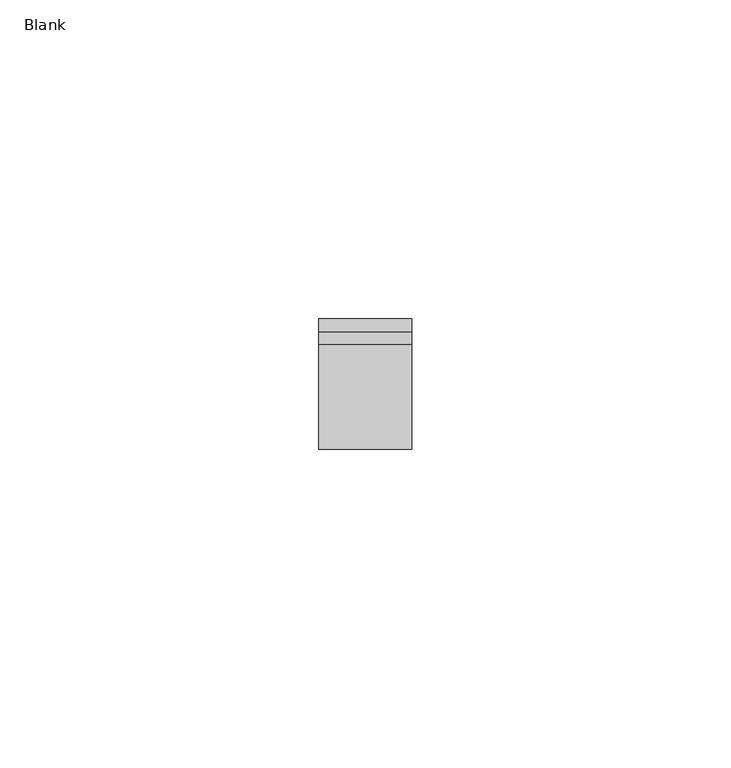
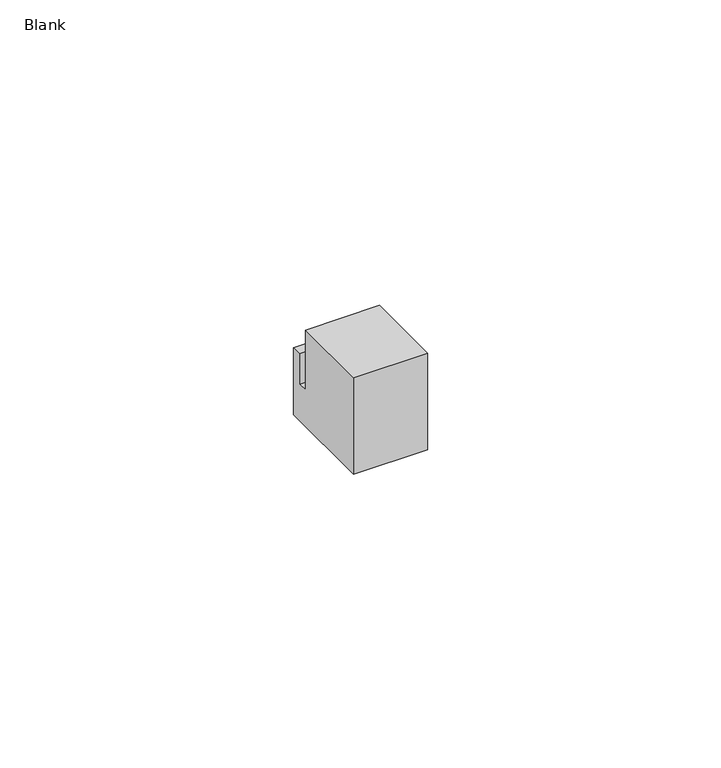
"""IFC4 building model written with IfcOpenShell, lengths in millimetres: electric appliance geometry, Data_Device-Network-Leviton-QuickPort-Adapter-Fiber : Blank."""

from ifc_helpers import new_model, si_unit, frame, origin, place, context, project, spatial, polyline, outline, extrude, source, transform, mapped, element, save


def blank_9616e23b(model_context):
    return source(origin(), model_context, "Body", "SweptSolid", [
        extrude(outline(polyline([(0.0, 0.0254), (16.383, 0.0254), (16.383, -12.446), (18.415, -12.446), (18.415, -6.096), (20.447, -6.096), (20.447, -20.066), (0.0, -20.066), (0.0, 0.0254)])), frame((-7.3025, 0.0, 0.0), z_axis=(1.0, 0.0, 0.0), x_axis=(0.0, 1.0, 0.0)), (0.0, 0.0, 1.0), 14.605),
    ])


if __name__ == "__main__":
    model = new_model("IFC4")
    model_context = context("Model", 3, world=origin())
    ifc_project = project(units=[si_unit("LENGTHUNIT", "METRE", prefix="MILLI")], contexts=[model_context])
    site = spatial("IfcSite", under=ifc_project)
    building = spatial("IfcBuilding", under=site)
    placement = place(None, origin())
    blank_shape = blank_9616e23b(model_context)
    element("IfcElectricAppliance", 1, ObjectType="Data_Device-Network-Leviton-QuickPort-Adapter-Fiber : Blank", at=placement, inside=building, context=model_context, shape_type="MappedRepresentation", body=[
        mapped(blank_shape, transform((0.0, 0.0, 0.0), x_axis=(1.0, 0.0, 0.0), y_axis=(0.0, 1.0, 0.0), z_axis=(0.0, 0.0, 1.0))),
    ])
    save(model, "model.ifc")
